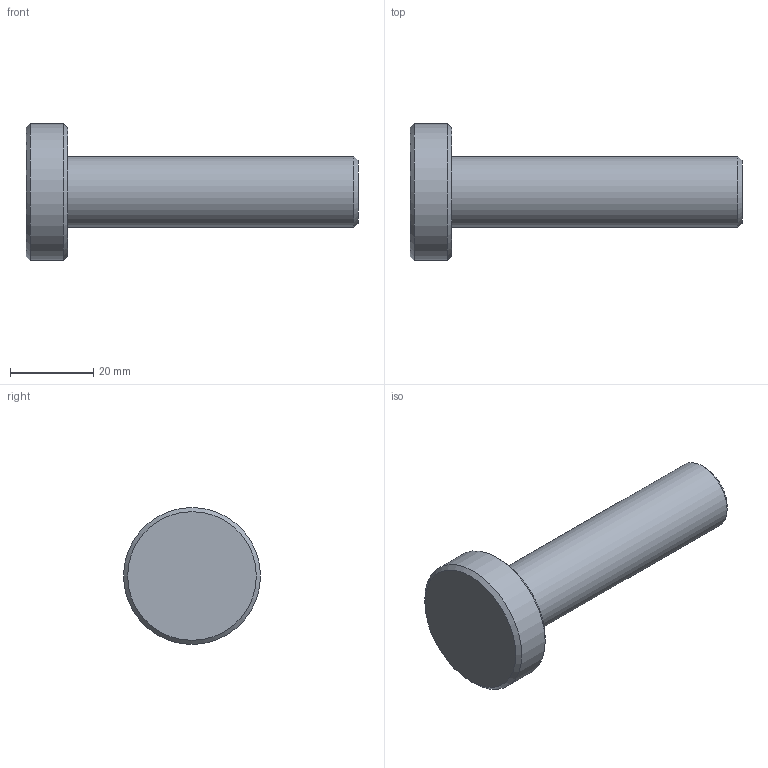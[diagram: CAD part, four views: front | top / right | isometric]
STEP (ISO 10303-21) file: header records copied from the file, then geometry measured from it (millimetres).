
FILE_DESCRIPTION(/* description */ (''),/* implementation_level */ '2;1');
FILE_NAME(/* name */ '',/* time_stamp */ '2024-09-02T11:27:20+09:00',/* author */ ('jhkim'),/* organization */ (''),/* preprocessor_version */ 'ST-DEVELOPER v20',/* originating_system */ 'Autodesk Inventor 2025',/* authorisation */ '');
FILE_SCHEMA (('AUTOMOTIVE_DESIGN { 1 0 10303 214 3 1 1 }'));
Length unit declared in the file: millimetre
Products named in the file (1): 로드
Bounding box: 80 x 33 x 33 mm (x, y, z)
Volume: 24027.3 mm3; surface area: 6541 mm2
Topology: 1 solids, 1 shells, 11 faces, 20 edges, 12 vertices
Faces by surface type: cone 5, cylinder 3, plane 3
Full cylindrical faces by diameter (mm): 4.917 x1, 17 x1, 33 x1
Entity records: 311 total; most frequent: DIRECTION 54, CARTESIAN_POINT 43, ORIENTED_EDGE 38, AXIS2_PLACEMENT_3D 23, EDGE_CURVE 19, EDGE_LOOP 13, VERTEX_POINT 12, FACE_OUTER_BOUND 11
